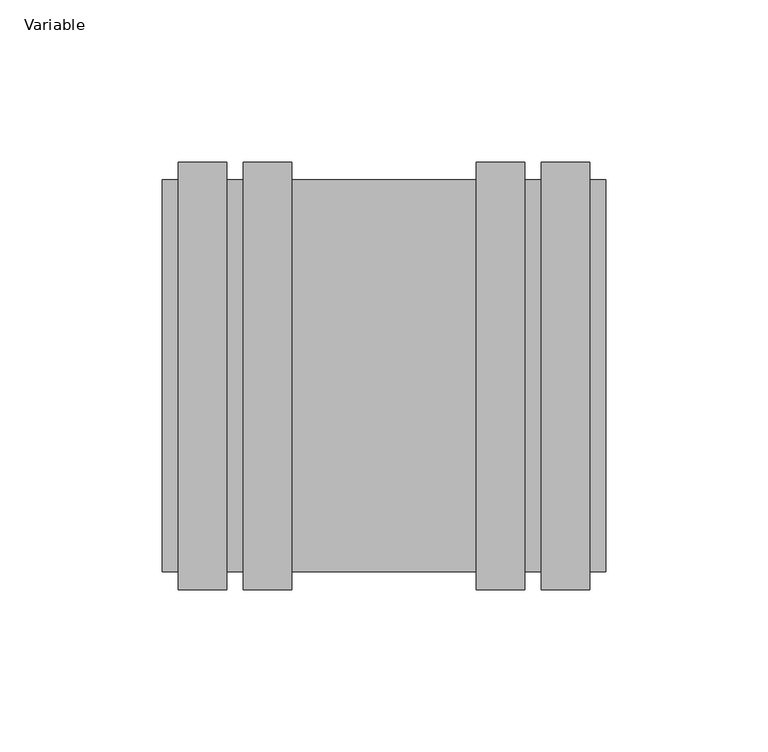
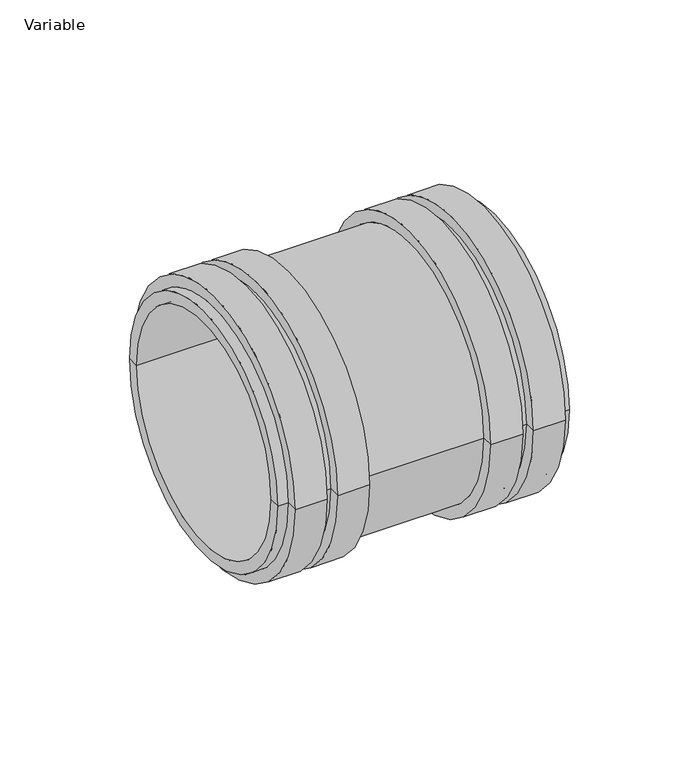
"""IFC4 building model written with IfcOpenShell, lengths in millimetres: pipe fitting geometry, AliaxisFR_Friaphon_AcousticCoupling_FR : Variable."""

from ifc_helpers import new_model, si_unit, frame, origin, place, context, project, spatial, polyline, circle_curve, source, transform, mapped, element, save
from ifc_brep_helpers import plane_surface, cylinder_surface, revolved_surface, advanced_brep


def variable_43ff1c23(model_context):
    return source(origin(), model_context, "Body", "AdvancedBrep", [
        advanced_brep(
        [(-7.0, -47.5, 0.0), (-7.0, 47.5, 0.0), (-7.0, 55.0, 0.0), (-7.0, -55.0, 0.0), (7.0, -47.5, 0.0), (7.0, 47.5, 0.0), (7.0, -55.0, 0.0), (7.0, 55.0, 0.0), (68.5, -55.0, 0.0), (68.5, 55.0, 0.0), (68.5, -60.5, 0.0), (68.5, 60.5, 0.0), (63.5, -60.5, 0.0), (63.5, 60.5, 0.0), (63.5, -66.0, 0.0), (63.5, 66.0, 0.0), (48.5, -66.0, 0.0), (48.5, 66.0, 0.0), (48.5, -60.5, 0.0), (48.5, 60.5, 0.0), (43.5, -60.5, 0.0), (43.5, 60.5, 0.0), (43.5, -66.0, 0.0), (43.5, 66.0, 0.0), (28.5, -66.0, 0.0), (28.5, 66.0, 0.0), (28.5, -60.5, 0.0), (28.5, 60.5, 0.0), (-28.5, -60.5, 0.0), (-28.5, 60.5, 0.0), (-28.5, -66.0, 0.0), (-28.5, 66.0, 0.0), (-43.5, -66.0, 0.0), (-43.5, 66.0, 0.0), (-43.5, -60.5, 0.0), (-43.5, 60.5, 0.0), (-48.5, -60.5, 0.0), (-48.5, 60.5, 0.0), (-48.5, -66.0, 0.0), (-48.5, 66.0, 0.0), (-63.5, -66.0, 0.0), (-63.5, 66.0, 0.0), (-63.5, -60.5, 0.0), (-63.5, 60.5, 0.0), (-68.5, -60.5, 0.0), (-68.5, 60.5, 0.0), (-68.5, -55.0, 0.0), (-68.5, 55.0, 0.0)],
        [
            (0, 1, circle_curve(frame((-7.0, 0.0, 0.0), z_axis=(1.0, 0.0, 0.0), x_axis=(0.0, 1.0, 0.0)), 47.5)),
            (1, 2),
            (2, 3, circle_curve(frame((-7.0, 0.0, 0.0), z_axis=(-1.0, 0.0, 0.0), x_axis=(0.0, 1.0, 0.0)), 55.0)),
            (3, 0),
            (1, 0, circle_curve(frame((-7.0, 0.0, 0.0), z_axis=(1.0, 0.0, 0.0), x_axis=(0.0, 1.0, 0.0)), 47.5)),
            (3, 2, circle_curve(frame((-7.0, 0.0, 0.0), z_axis=(-1.0, 0.0, 0.0), x_axis=(0.0, 1.0, 0.0)), 55.0)),
            (4, 5, circle_curve(frame((7.0, 0.0, 0.0), z_axis=(1.0, 0.0, 0.0), x_axis=(0.0, 1.0, 0.0)), 47.5)),
            (5, 1),
            (0, 4),
            (5, 4, circle_curve(frame((7.0, 0.0, 0.0), z_axis=(1.0, 0.0, 0.0), x_axis=(0.0, 1.0, 0.0)), 47.5)),
            (6, 7, circle_curve(frame((7.0, 0.0, 0.0), z_axis=(1.0, 0.0, 0.0), x_axis=(0.0, 1.0, 0.0)), 55.0)),
            (7, 5),
            (4, 6),
            (7, 6, circle_curve(frame((7.0, 0.0, 0.0), z_axis=(1.0, 0.0, 0.0), x_axis=(0.0, 1.0, 0.0)), 55.0)),
            (8, 9, circle_curve(frame((68.5, 0.0, 0.0), z_axis=(1.0, 0.0, 0.0), x_axis=(0.0, 1.0, 0.0)), 55.0)),
            (9, 7),
            (6, 8),
            (9, 8, circle_curve(frame((68.5, 0.0, 0.0), z_axis=(1.0, 0.0, 0.0), x_axis=(0.0, 1.0, 0.0)), 55.0)),
            (10, 11, circle_curve(frame((68.5, 0.0, 0.0), z_axis=(1.0, 0.0, 0.0), x_axis=(0.0, 1.0, 0.0)), 60.5)),
            (11, 9),
            (8, 10),
            (11, 10, circle_curve(frame((68.5, 0.0, 0.0), z_axis=(1.0, 0.0, 0.0), x_axis=(0.0, 1.0, 0.0)), 60.5)),
            (12, 13, circle_curve(frame((63.5, 0.0, 0.0), z_axis=(1.0, 0.0, 0.0), x_axis=(0.0, 1.0, 0.0)), 60.5)),
            (13, 11),
            (10, 12),
            (13, 12, circle_curve(frame((63.5, 0.0, 0.0), z_axis=(1.0, 0.0, 0.0), x_axis=(0.0, 1.0, 0.0)), 60.5)),
            (14, 15, circle_curve(frame((63.5, 0.0, 0.0), z_axis=(1.0, 0.0, 0.0), x_axis=(0.0, 1.0, 0.0)), 66.0)),
            (15, 13),
            (12, 14),
            (15, 14, circle_curve(frame((63.5, 0.0, 0.0), z_axis=(1.0, 0.0, 0.0), x_axis=(0.0, 1.0, 0.0)), 66.0)),
            (16, 17, circle_curve(frame((48.5, 0.0, 0.0), z_axis=(1.0, 0.0, 0.0), x_axis=(0.0, 1.0, 0.0)), 66.0)),
            (17, 15),
            (14, 16),
            (17, 16, circle_curve(frame((48.5, 0.0, 0.0), z_axis=(1.0, 0.0, 0.0), x_axis=(0.0, 1.0, 0.0)), 66.0)),
            (18, 19, circle_curve(frame((48.5, 0.0, 0.0), z_axis=(1.0, 0.0, 0.0), x_axis=(0.0, 1.0, 0.0)), 60.5)),
            (19, 17),
            (16, 18),
            (19, 18, circle_curve(frame((48.5, 0.0, 0.0), z_axis=(1.0, 0.0, 0.0), x_axis=(0.0, 1.0, 0.0)), 60.5)),
            (20, 21, circle_curve(frame((43.5, 0.0, 0.0), z_axis=(1.0, 0.0, 0.0), x_axis=(0.0, 1.0, 0.0)), 60.5)),
            (21, 19),
            (18, 20),
            (21, 20, circle_curve(frame((43.5, 0.0, 0.0), z_axis=(1.0, 0.0, 0.0), x_axis=(0.0, 1.0, 0.0)), 60.5)),
            (22, 23, circle_curve(frame((43.5, 0.0, 0.0), z_axis=(1.0, 0.0, 0.0), x_axis=(0.0, 1.0, 0.0)), 66.0)),
            (23, 21),
            (20, 22),
            (23, 22, circle_curve(frame((43.5, 0.0, 0.0), z_axis=(1.0, 0.0, 0.0), x_axis=(0.0, 1.0, 0.0)), 66.0)),
            (24, 25, circle_curve(frame((28.5, 0.0, 0.0), z_axis=(1.0, 0.0, 0.0), x_axis=(0.0, 1.0, 0.0)), 66.0)),
            (25, 23),
            (22, 24),
            (25, 24, circle_curve(frame((28.5, 0.0, 0.0), z_axis=(1.0, 0.0, 0.0), x_axis=(0.0, 1.0, 0.0)), 66.0)),
            (26, 27, circle_curve(frame((28.5, 0.0, 0.0), z_axis=(1.0, 0.0, 0.0), x_axis=(0.0, 1.0, 0.0)), 60.5)),
            (27, 25),
            (24, 26),
            (27, 26, circle_curve(frame((28.5, 0.0, 0.0), z_axis=(1.0, 0.0, 0.0), x_axis=(0.0, 1.0, 0.0)), 60.5)),
            (28, 29, circle_curve(frame((-28.5, 0.0, 0.0), z_axis=(1.0, 0.0, 0.0), x_axis=(0.0, 1.0, 0.0)), 60.5)),
            (29, 27),
            (26, 28),
            (29, 28, circle_curve(frame((-28.5, 0.0, 0.0), z_axis=(1.0, 0.0, 0.0), x_axis=(0.0, 1.0, 0.0)), 60.5)),
            (30, 31, circle_curve(frame((-28.5, 0.0, 0.0), z_axis=(1.0, 0.0, 0.0), x_axis=(0.0, 1.0, 0.0)), 66.0)),
            (31, 29),
            (28, 30),
            (31, 30, circle_curve(frame((-28.5, 0.0, 0.0), z_axis=(1.0, 0.0, 0.0), x_axis=(0.0, 1.0, 0.0)), 66.0)),
            (32, 33, circle_curve(frame((-43.5, 0.0, 0.0), z_axis=(1.0, 0.0, 0.0), x_axis=(0.0, 1.0, 0.0)), 66.0)),
            (33, 31),
            (30, 32),
            (33, 32, circle_curve(frame((-43.5, 0.0, 0.0), z_axis=(1.0, 0.0, 0.0), x_axis=(0.0, 1.0, 0.0)), 66.0)),
            (34, 35, circle_curve(frame((-43.5, 0.0, 0.0), z_axis=(1.0, 0.0, 0.0), x_axis=(0.0, 1.0, 0.0)), 60.5)),
            (35, 33),
            (32, 34),
            (35, 34, circle_curve(frame((-43.5, 0.0, 0.0), z_axis=(1.0, 0.0, 0.0), x_axis=(0.0, 1.0, 0.0)), 60.5)),
            (36, 37, circle_curve(frame((-48.5, 0.0, 0.0), z_axis=(1.0, 0.0, 0.0), x_axis=(0.0, 1.0, 0.0)), 60.5)),
            (37, 35),
            (34, 36),
            (37, 36, circle_curve(frame((-48.5, 0.0, 0.0), z_axis=(1.0, 0.0, 0.0), x_axis=(0.0, 1.0, 0.0)), 60.5)),
            (38, 39, circle_curve(frame((-48.5, 0.0, 0.0), z_axis=(1.0, 0.0, 0.0), x_axis=(0.0, 1.0, 0.0)), 66.0)),
            (39, 37),
            (36, 38),
            (39, 38, circle_curve(frame((-48.5, 0.0, 0.0), z_axis=(1.0, 0.0, 0.0), x_axis=(0.0, 1.0, 0.0)), 66.0)),
            (40, 41, circle_curve(frame((-63.5, 0.0, 0.0), z_axis=(1.0, 0.0, 0.0), x_axis=(0.0, 1.0, 0.0)), 66.0)),
            (41, 39),
            (38, 40),
            (41, 40, circle_curve(frame((-63.5, 0.0, 0.0), z_axis=(1.0, 0.0, 0.0), x_axis=(0.0, 1.0, 0.0)), 66.0)),
            (42, 43, circle_curve(frame((-63.5, 0.0, 0.0), z_axis=(1.0, 0.0, 0.0), x_axis=(0.0, 1.0, 0.0)), 60.5)),
            (43, 41),
            (40, 42),
            (43, 42, circle_curve(frame((-63.5, 0.0, 0.0), z_axis=(1.0, 0.0, 0.0), x_axis=(0.0, 1.0, 0.0)), 60.5)),
            (44, 45, circle_curve(frame((-68.5, 0.0, 0.0), z_axis=(1.0, 0.0, 0.0), x_axis=(0.0, 1.0, 0.0)), 60.5)),
            (45, 43),
            (42, 44),
            (45, 44, circle_curve(frame((-68.5, 0.0, 0.0), z_axis=(1.0, 0.0, 0.0), x_axis=(0.0, 1.0, 0.0)), 60.5)),
            (46, 47, circle_curve(frame((-68.5, 0.0, 0.0), z_axis=(1.0, 0.0, 0.0), x_axis=(0.0, 1.0, 0.0)), 55.0)),
            (47, 45),
            (44, 46),
            (47, 46, circle_curve(frame((-68.5, 0.0, 0.0), z_axis=(1.0, 0.0, 0.0), x_axis=(0.0, 1.0, 0.0)), 55.0)),
            (2, 47),
            (46, 3),
        ],
        [
            plane_surface(frame((-7.0, 0.0, 0.0), z_axis=(-1.0, 0.0, 0.0), x_axis=(0.0, 1.0, 0.0))),
            revolved_surface(polyline([(-7.0, 47.5, 0.0), (7.0, 47.5, 0.0)]), (2016.5, 0.0, 0.0), (-1.0, 0.0, 0.0)),
            plane_surface(frame((7.0, 0.0, 0.0), z_axis=(1.0, 0.0, 0.0), x_axis=(0.0, 1.0, 0.0))),
            revolved_surface(polyline([(7.0, 55.0, 0.0), (68.5, 55.0, 0.0)]), (2016.5, 0.0, 0.0), (-1.0, 0.0, 0.0)),
            plane_surface(frame((68.5, 0.0, 0.0), z_axis=(1.0, 0.0, 0.0), x_axis=(0.0, 1.0, 0.0))),
            cylinder_surface(frame((2016.5, 0.0, 0.0), z_axis=(-1.0, 0.0, 0.0), x_axis=(0.0, 1.0, 0.0)), 60.5),
            plane_surface(frame((63.5, 0.0, 0.0), z_axis=(1.0, 0.0, 0.0), x_axis=(0.0, 1.0, 0.0))),
            cylinder_surface(frame((2016.5, 0.0, 0.0), z_axis=(-1.0, 0.0, 0.0), x_axis=(0.0, 1.0, 0.0)), 66.0),
            plane_surface(frame((48.5, 0.0, 0.0), z_axis=(-1.0, 0.0, 0.0), x_axis=(0.0, 1.0, 0.0))),
            plane_surface(frame((43.5, 0.0, 0.0), z_axis=(1.0, 0.0, 0.0), x_axis=(0.0, 1.0, 0.0))),
            plane_surface(frame((28.5, 0.0, 0.0), z_axis=(-1.0, 0.0, 0.0), x_axis=(0.0, 1.0, 0.0))),
            plane_surface(frame((-28.5, 0.0, 0.0), z_axis=(1.0, 0.0, 0.0), x_axis=(0.0, 1.0, 0.0))),
            plane_surface(frame((-43.5, 0.0, 0.0), z_axis=(-1.0, 0.0, 0.0), x_axis=(0.0, 1.0, 0.0))),
            plane_surface(frame((-48.5, 0.0, 0.0), z_axis=(1.0, 0.0, 0.0), x_axis=(0.0, 1.0, 0.0))),
            plane_surface(frame((-63.5, 0.0, 0.0), z_axis=(-1.0, 0.0, 0.0), x_axis=(0.0, 1.0, 0.0))),
            plane_surface(frame((-68.5, 0.0, 0.0), z_axis=(-1.0, 0.0, 0.0), x_axis=(0.0, 1.0, 0.0))),
            revolved_surface(polyline([(-68.5, 55.0, 0.0), (-7.0, 55.0, 0.0)]), (2016.5, 0.0, 0.0), (-1.0, 0.0, 0.0)),
        ],
        [
            (0, [[1, 2, 3, 4]]),
            (0, [[5, -4, 6, -2]]),
            (1, [[7, 8, -1, 9]]),
            (1, [[10, -9, -5, -8]]),
            (2, [[11, 12, -7, 13]]),
            (2, [[14, -13, -10, -12]]),
            (3, [[15, 16, -11, 17]]),
            (3, [[18, -17, -14, -16]]),
            (4, [[19, 20, -15, 21]]),
            (4, [[22, -21, -18, -20]]),
            (5, [[23, 24, -19, 25]]),
            (5, [[26, -25, -22, -24]]),
            (6, [[27, 28, -23, 29]]),
            (6, [[30, -29, -26, -28]]),
            (7, [[31, 32, -27, 33]]),
            (7, [[34, -33, -30, -32]]),
            (8, [[35, 36, -31, 37]]),
            (8, [[38, -37, -34, -36]]),
            (5, [[39, 40, -35, 41]]),
            (5, [[42, -41, -38, -40]]),
            (9, [[43, 44, -39, 45]]),
            (9, [[46, -45, -42, -44]]),
            (7, [[47, 48, -43, 49]]),
            (7, [[50, -49, -46, -48]]),
            (10, [[51, 52, -47, 53]]),
            (10, [[54, -53, -50, -52]]),
            (5, [[55, 56, -51, 57]]),
            (5, [[58, -57, -54, -56]]),
            (11, [[59, 60, -55, 61]]),
            (11, [[62, -61, -58, -60]]),
            (7, [[63, 64, -59, 65]]),
            (7, [[66, -65, -62, -64]]),
            (12, [[67, 68, -63, 69]]),
            (12, [[70, -69, -66, -68]]),
            (5, [[71, 72, -67, 73]]),
            (5, [[74, -73, -70, -72]]),
            (13, [[75, 76, -71, 77]]),
            (13, [[78, -77, -74, -76]]),
            (7, [[79, 80, -75, 81]]),
            (7, [[82, -81, -78, -80]]),
            (14, [[83, 84, -79, 85]]),
            (14, [[86, -85, -82, -84]]),
            (5, [[87, 88, -83, 89]]),
            (5, [[90, -89, -86, -88]]),
            (15, [[91, 92, -87, 93]]),
            (15, [[94, -93, -90, -92]]),
            (16, [[-3, 95, -91, 96]]),
            (16, [[-6, -96, -94, -95]]),
        ],
    ),
    ])


if __name__ == "__main__":
    model = new_model("IFC4")
    model_context = context("Model", 3, world=origin())
    ifc_project = project(units=[si_unit("LENGTHUNIT", "METRE", prefix="MILLI")], contexts=[model_context])
    site = spatial("IfcSite", under=ifc_project)
    building = spatial("IfcBuilding", under=site)
    placement = place(None, origin())
    variable_shape = variable_43ff1c23(model_context)
    element("IfcPipeFitting", 1, ObjectType="AliaxisFR_Friaphon_AcousticCoupling_FR : Variable", at=placement, inside=building, context=model_context, shape_type="MappedRepresentation", body=[
        mapped(variable_shape, transform((0.0, 0.0, 0.0), x_axis=(1.0, 0.0, 0.0), y_axis=(0.0, 1.0, 0.0), z_axis=(0.0, 0.0, 1.0))),
    ])
    save(model, "model.ifc")
